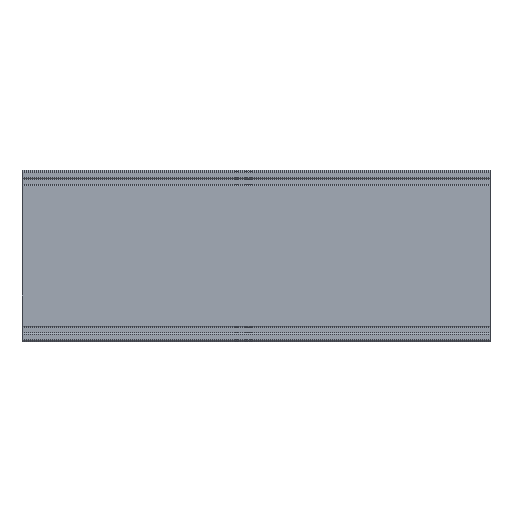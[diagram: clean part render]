
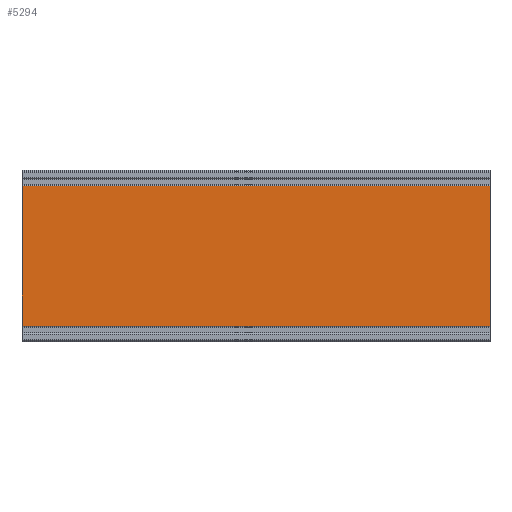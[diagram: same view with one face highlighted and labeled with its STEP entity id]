
A CAD part, top view. The second image highlights one B-rep face of the part: STEP entity #5294.
In plain terms, the highlighted planar face has unit normal (0, 0, 1).
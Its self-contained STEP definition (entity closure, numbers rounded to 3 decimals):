
#606 = CARTESIAN_POINT ( 'NONE',  ( 1000., -79.65, 50. ) ) ;
#716 = DIRECTION ( 'NONE',  ( -1., 0., 0. ) ) ;
#786 = CARTESIAN_POINT ( 'NONE',  ( 400., 100.15, 50. ) ) ;
#1397 = EDGE_LOOP ( 'NONE', ( #3891, #8388, #2101, #8593 ) ) ;
#1879 = EDGE_CURVE ( 'NONE', #6923, #4899, #2615, .T. ) ;
#2101 = ORIENTED_EDGE ( 'NONE', *, *, #1879, .F. ) ;
#2403 = VERTEX_POINT ( 'NONE', #4616 ) ;
#2615 = LINE ( 'NONE', #10039, #3906 ) ;
#2950 = FACE_OUTER_BOUND ( 'NONE', #1397, .T. ) ;
#3039 = DIRECTION ( 'NONE',  ( -1., 0., 0. ) ) ;
#3066 = CARTESIAN_POINT ( 'NONE',  ( 400., 100.15, 50. ) ) ;
#3407 = CARTESIAN_POINT ( 'NONE',  ( 1000., 100.15, 50. ) ) ;
#3775 = VECTOR ( 'NONE', #4661, 1000. ) ;
#3891 = ORIENTED_EDGE ( 'NONE', *, *, #10123, .T. ) ;
#3906 = VECTOR ( 'NONE', #6679, 1000. ) ;
#3938 = DIRECTION ( 'NONE',  ( 0., 0., -1. ) ) ;
#4363 = VECTOR ( 'NONE', #716, 1000. ) ;
#4616 = CARTESIAN_POINT ( 'NONE',  ( 400., -79.65, 50. ) ) ;
#4661 = DIRECTION ( 'NONE',  ( 0., -1., 0. ) ) ;
#4899 = VERTEX_POINT ( 'NONE', #5817 ) ;
#5294 = ADVANCED_FACE ( 'NONE', ( #2950 ), #7339, .F. ) ;
#5322 = EDGE_CURVE ( 'NONE', #6923, #6450, #9761, .T. ) ;
#5817 = CARTESIAN_POINT ( 'NONE',  ( 1000., -79.65, 50. ) ) ;
#5821 = AXIS2_PLACEMENT_3D ( 'NONE', #8970, #3938, #3039 ) ;
#5918 = VECTOR ( 'NONE', #9924, 1000. ) ;
#6385 = EDGE_CURVE ( 'NONE', #4899, #2403, #8820, .T. ) ;
#6450 = VERTEX_POINT ( 'NONE', #786 ) ;
#6608 = CARTESIAN_POINT ( 'NONE',  ( 1000., 100.15, 50. ) ) ;
#6664 = LINE ( 'NONE', #3066, #3775 ) ;
#6679 = DIRECTION ( 'NONE',  ( 0., -1., 0. ) ) ;
#6923 = VERTEX_POINT ( 'NONE', #3407 ) ;
#7339 = PLANE ( 'NONE',  #5821 ) ;
#8388 = ORIENTED_EDGE ( 'NONE', *, *, #6385, .F. ) ;
#8593 = ORIENTED_EDGE ( 'NONE', *, *, #5322, .T. ) ;
#8820 = LINE ( 'NONE', #606, #5918 ) ;
#8970 = CARTESIAN_POINT ( 'NONE',  ( 1000., 100.15, 50. ) ) ;
#9761 = LINE ( 'NONE', #6608, #4363 ) ;
#9924 = DIRECTION ( 'NONE',  ( -1., 0., 0. ) ) ;
#10039 = CARTESIAN_POINT ( 'NONE',  ( 1000., 100.15, 50. ) ) ;
#10123 = EDGE_CURVE ( 'NONE', #6450, #2403, #6664, .T. ) ;
